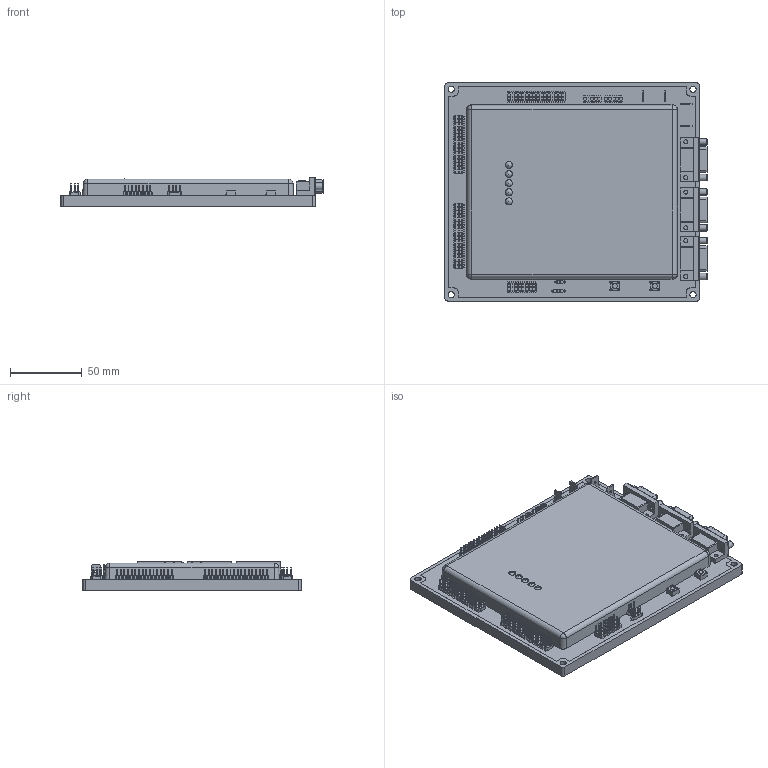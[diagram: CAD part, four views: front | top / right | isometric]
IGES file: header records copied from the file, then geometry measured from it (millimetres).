
Global section: file name: No Iges File Name specified; native system: AutoDesk Inventor R6.0; preprocessor: AutoDesk Inventor Iges Exporter R6.0; author: No Author specified; organization: No Organization specified; date: 20060107.204627; units: inch
Bounding box: 183.2 x 152.4 x 20.33 mm (x, y, z)
Surface area: 184290.3 mm2 (no closed solid volume)
Topology: 0 solids, 0 shells, 6102 faces, 26925 edges, 26758 vertices
Faces by surface type: plane 5792, revolution 197, bspline 113
